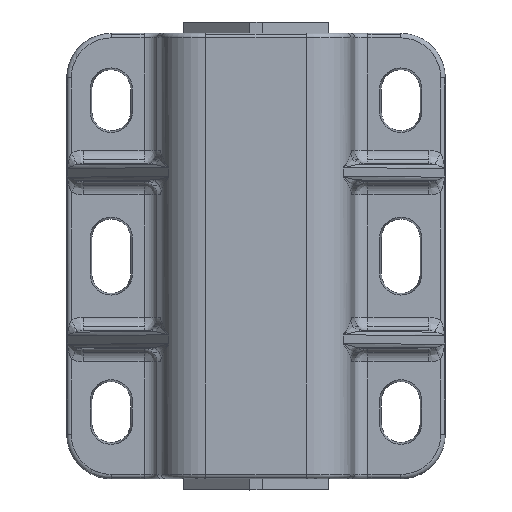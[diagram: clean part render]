
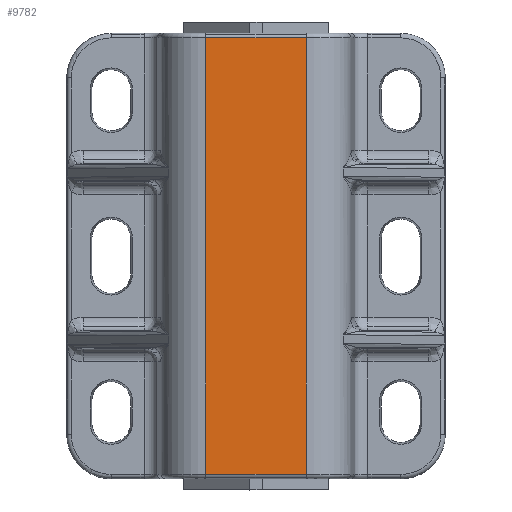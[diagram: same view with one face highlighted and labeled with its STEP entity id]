
A CAD part, top view. The second image highlights one B-rep face of the part: STEP entity #9782.
In plain terms, the highlighted planar face has unit normal (0, 0, 1).
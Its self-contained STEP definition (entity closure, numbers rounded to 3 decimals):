
#5339=CARTESIAN_POINT('',(-95.5,2.0,77.582));
#5340=VERTEX_POINT('',#5339);
#5348=CARTESIAN_POINT('',(-95.5,198.0,77.582));
#5349=VERTEX_POINT('',#5348);
#5350=CARTESIAN_POINT('',(-95.5,2.0,77.582));
#5351=DIRECTION('',(0.0,1.0,0.0));
#5352=VECTOR('',#5351,196.0);
#5353=LINE('',#5350,#5352);
#5354=EDGE_CURVE('',#5340,#5349,#5353,.T.);
#6310=CARTESIAN_POINT('',(-50.5,198.0,77.582));
#6311=VERTEX_POINT('',#6310);
#6319=CARTESIAN_POINT('',(-50.5,2.0,77.582));
#6320=VERTEX_POINT('',#6319);
#6321=CARTESIAN_POINT('',(-50.5,2.0,77.582));
#6322=DIRECTION('',(0.0,1.0,0.0));
#6323=VECTOR('',#6322,196.0);
#6324=LINE('',#6321,#6323);
#6325=EDGE_CURVE('',#6320,#6311,#6324,.T.);
#8951=CARTESIAN_POINT('',(-50.5,2.0,77.582));
#8952=DIRECTION('',(-1.0,0.0,0.0));
#8953=VECTOR('',#8952,45.0);
#8954=LINE('',#8951,#8953);
#8955=EDGE_CURVE('',#6320,#5340,#8954,.T.);
#9264=CARTESIAN_POINT('',(-95.5,198.0,77.582));
#9265=DIRECTION('',(1.0,0.0,0.0));
#9266=VECTOR('',#9265,45.0);
#9267=LINE('',#9264,#9266);
#9268=EDGE_CURVE('',#5349,#6311,#9267,.T.);
#9771=CARTESIAN_POINT('',(-50.5,0.0,77.582));
#9772=DIRECTION('',(0.0,0.0,1.0));
#9773=DIRECTION('',(1.0,0.0,0.0));
#9774=AXIS2_PLACEMENT_3D('',#9771,#9772,#9773);
#9775=PLANE('',#9774);
#9776=ORIENTED_EDGE('',*,*,#9268,.F.);
#9777=ORIENTED_EDGE('',*,*,#5354,.F.);
#9778=ORIENTED_EDGE('',*,*,#8955,.F.);
#9779=ORIENTED_EDGE('',*,*,#6325,.T.);
#9780=EDGE_LOOP('',(#9776,#9777,#9778,#9779));
#9781=FACE_OUTER_BOUND('',#9780,.T.);
#9782=ADVANCED_FACE('',(#9781),#9775,.T.);
